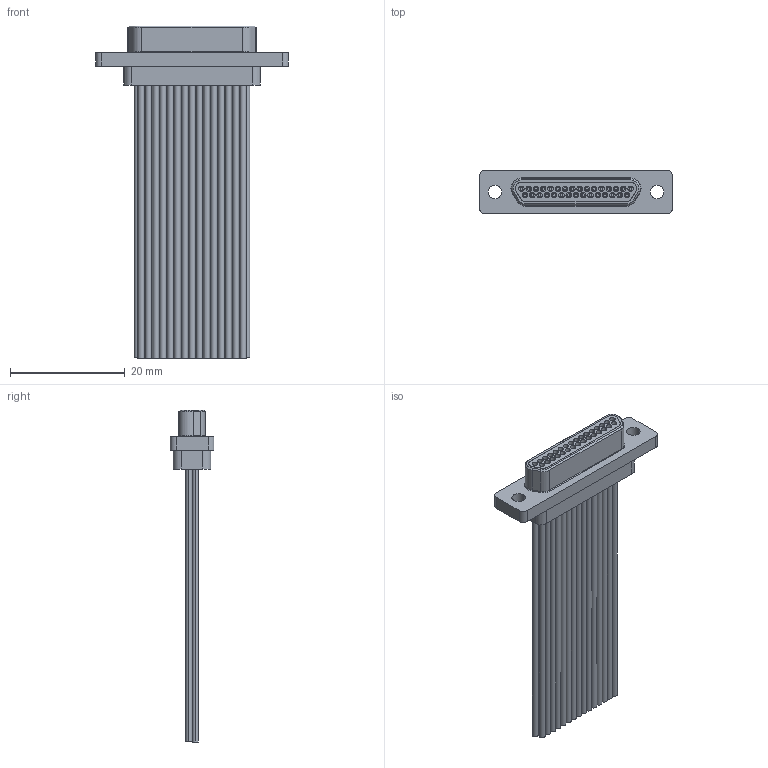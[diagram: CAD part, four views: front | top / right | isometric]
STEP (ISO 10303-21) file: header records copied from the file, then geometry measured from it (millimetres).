
FILE_DESCRIPTION (( 'STEP AP214' ), '1' );
FILE_NAME ('A98100-031 REV B.STEP', '2014-05-06T18:08:23', ( '' ), ( '' ), 'SwSTEP 2.0', 'SolidWorks 2014', '' );
FILE_SCHEMA (( 'AUTOMOTIVE_DESIGN' ));
Length unit declared in the file: inch
Products named in the file (1): A98100-031 REV B
Bounding box: 33.66 x 7.63 x 57.94 mm (x, y, z)
Volume: 2778.2 mm3; surface area: 7562.8 mm2
Topology: 1 solids, 3 shells, 745 faces, 1667 edges, 1062 vertices
Faces by surface type: cylinder 346, plane 273, cone 67, bspline 54, torus 5
Entity records: 23395 total; most frequent: CARTESIAN_POINT 6481, DIRECTION 3646, ORIENTED_EDGE 3322, EDGE_CURVE 1661, AXIS2_PLACEMENT_3D 1400, VERTEX_POINT 1062, EDGE_LOOP 889, VECTOR 846
